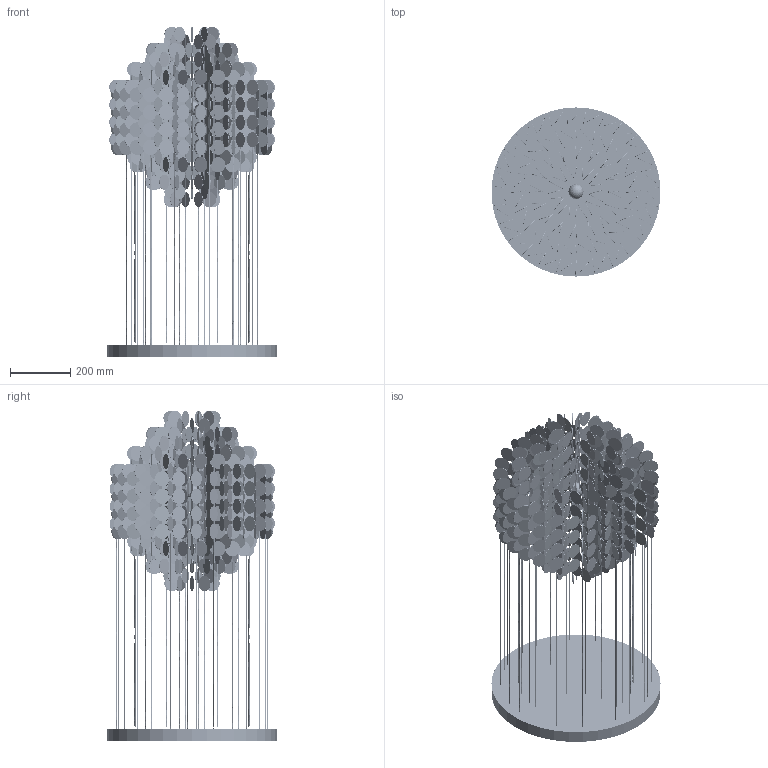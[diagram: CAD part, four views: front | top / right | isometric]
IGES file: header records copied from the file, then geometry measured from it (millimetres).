
Start section: SolidWorks IGES file using analytic representation for surfaces
Global section: file name: C:\Users\Chiina\Desktop\Chiina\Dokumendid\Frandsen Project\VerPan\Fun 4DM\FUN 4DM assembly.IGS; native system: SolidWorks 2013; preprocessor: SolidWorks 2013; author: Chiina; date: 130107.204144; units: millimetre
Bounding box: 560 x 560 x 1094.5 mm (x, y, z)
Surface area: 4569822.3 mm2 (no closed solid volume)
Topology: 0 solids, 0 shells, 4644 faces, 135448 edges, 135446 vertices
Faces by surface type: revolution 2390, bspline 2254
